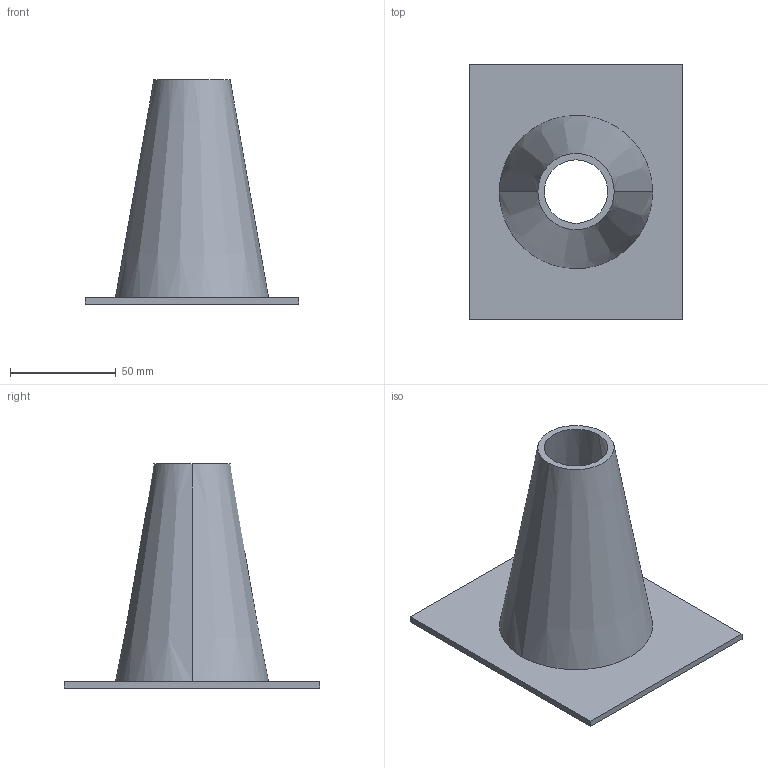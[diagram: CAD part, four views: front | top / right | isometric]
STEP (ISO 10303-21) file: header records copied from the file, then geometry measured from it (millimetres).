
FILE_DESCRIPTION(('CATIA V5 STEP Exchange'),'2;1');
FILE_NAME('C:\_Andres\UNIVERSIDAD\IQS\ASIGNATURAS\DAO\EXF\EXF-15161c\1original\Gual_Moseguí_Ej08-ensambla_v11.stp','2016-03-04T21:37:16+00:00',('none'),('none'),'CATIA Version 5 Release 20 SP 1 (IN-10)','CATIA V5 STEP AP203','none');
FILE_SCHEMA(('CONFIG_CONTROL_DESIGN'));
Length unit declared in the file: millimetre
Products named in the file (1): Gual_Moseguí_Ej08-ensambla_v11
Bounding box: 101 x 121 x 106 mm (x, y, z)
Volume: 76609.3 mm3; surface area: 52696.9 mm2
Topology: 1 solids, 1 shells, 11 faces, 24 edges, 16 vertices
Faces by surface type: plane 7, cone 4
Entity records: 414 total; most frequent: CARTESIAN_POINT 127, ORIENTED_EDGE 48, DIRECTION 44, EDGE_CURVE 24, AXIS2_PLACEMENT_3D 17, VECTOR 16, LINE 16, VERTEX_POINT 16
